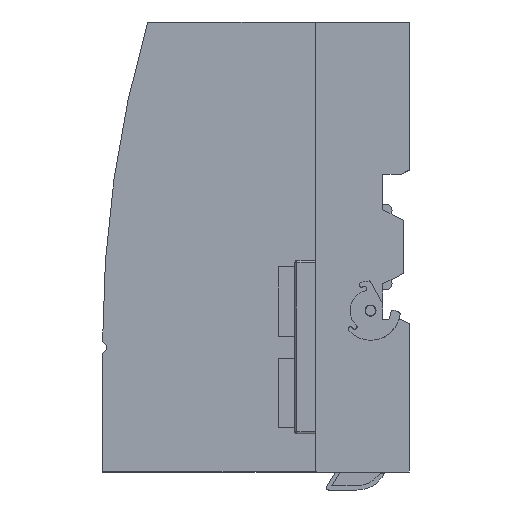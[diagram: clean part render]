
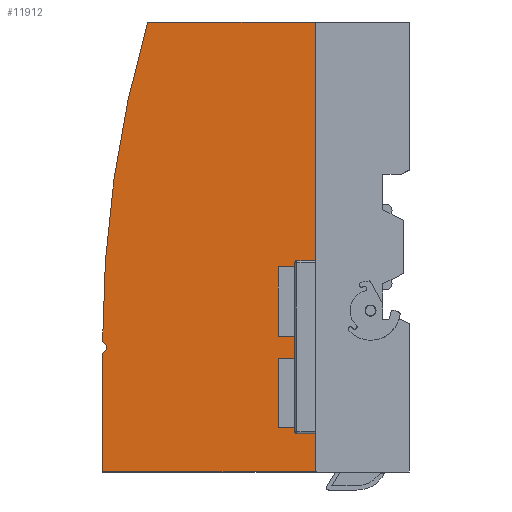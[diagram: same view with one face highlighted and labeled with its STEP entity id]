
A CAD part, left-side view. The second image highlights one B-rep face of the part: STEP entity #11912.
In plain terms, the highlighted planar face has unit normal (-1, 0, 0).
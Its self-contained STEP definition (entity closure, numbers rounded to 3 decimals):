
#104 = VECTOR ( 'NONE', #2578, 1000. ) ;
#136 = ORIENTED_EDGE ( 'NONE', *, *, #18513, .F. ) ;
#491 = ORIENTED_EDGE ( 'NONE', *, *, #26405, .F. ) ;
#1681 = DIRECTION ( 'NONE',  ( 0., 0., 1. ) ) ;
#2097 = CARTESIAN_POINT ( 'NONE',  ( 57.765, 75., -108.497 ) ) ;
#2146 = EDGE_CURVE ( 'NONE', #20770, #28177, #27227, .T. ) ;
#2578 = DIRECTION ( 'NONE',  ( 0., 1., 0. ) ) ;
#2812 = EDGE_CURVE ( 'NONE', #27849, #13783, #7240, .T. ) ;
#3464 = CARTESIAN_POINT ( 'NONE',  ( 57.765, 75., -105.497 ) ) ;
#3885 = ORIENTED_EDGE ( 'NONE', *, *, #2146, .F. ) ;
#4156 = CARTESIAN_POINT ( 'NONE',  ( 57.765, -16.749, -16.749 ) ) ;
#4619 = VECTOR ( 'NONE', #13908, 1000. ) ;
#4737 = EDGE_CURVE ( 'NONE', #21561, #27832, #27930, .T. ) ;
#6474 = CARTESIAN_POINT ( 'NONE',  ( 57.765, 23., -137.497 ) ) ;
#7225 = ORIENTED_EDGE ( 'NONE', *, *, #20458, .F. ) ;
#7240 = LINE ( 'NONE', #21262, #18736 ) ;
#7873 = ORIENTED_EDGE ( 'NONE', *, *, #4737, .F. ) ;
#8541 = DIRECTION ( 'NONE',  ( 0., -0.707, 0.707 ) ) ;
#8772 = ORIENTED_EDGE ( 'NONE', *, *, #2812, .T. ) ;
#8847 = VERTEX_POINT ( 'NONE', #3464 ) ;
#10650 = VECTOR ( 'NONE', #8541, 1000. ) ;
#11912 = ADVANCED_FACE ( 'NONE', ( #21527 ), #24164, .F. ) ;
#11981 = AXIS2_PLACEMENT_3D ( 'NONE', #6474, #15226, #19481 ) ;
#12557 = DIRECTION ( 'NONE',  ( 0., 0., -1. ) ) ;
#13783 = VERTEX_POINT ( 'NONE', #23967 ) ;
#13908 = DIRECTION ( 'NONE',  ( 0., 0., 1. ) ) ;
#13967 = DIRECTION ( 'NONE',  ( 0., 1., 0. ) ) ;
#15226 = DIRECTION ( 'NONE',  ( 1., 0., 0. ) ) ;
#15254 = LINE ( 'NONE', #4156, #10650 ) ;
#15669 = CARTESIAN_POINT ( 'NONE',  ( 57.765, 23., -137.497 ) ) ;
#15728 = LINE ( 'NONE', #27004, #24248 ) ;
#16024 = LINE ( 'NONE', #20706, #104 ) ;
#16671 = ORIENTED_EDGE ( 'NONE', *, *, #17648, .F. ) ;
#17089 = CARTESIAN_POINT ( 'NONE',  ( 57.765, 23., -137.497 ) ) ;
#17648 = EDGE_CURVE ( 'NONE', #27849, #20770, #15254, .T. ) ;
#18329 = CARTESIAN_POINT ( 'NONE',  ( 57.765, 64., -27.497 ) ) ;
#18513 = EDGE_CURVE ( 'NONE', #27832, #13783, #15728, .T. ) ;
#18736 = VECTOR ( 'NONE', #27697, 1000. ) ;
#19481 = DIRECTION ( 'NONE',  ( 0., 0., -1. ) ) ;
#19826 = CARTESIAN_POINT ( 'NONE',  ( 57.765, 74., -107.497 ) ) ;
#20458 = EDGE_CURVE ( 'NONE', #28177, #8847, #27456, .T. ) ;
#20706 = CARTESIAN_POINT ( 'NONE',  ( 57.765, 23., -27.497 ) ) ;
#20711 = EDGE_LOOP ( 'NONE', ( #3885, #16671, #8772, #136, #7873, #24834, #491, #7225 ) ) ;
#20770 = VERTEX_POINT ( 'NONE', #19826 ) ;
#20858 = DIRECTION ( 'NONE',  ( 0., 0.707, 0.707 ) ) ;
#21262 = CARTESIAN_POINT ( 'NONE',  ( 57.765, 75., -137.497 ) ) ;
#21527 = FACE_OUTER_BOUND ( 'NONE', #20711, .T. ) ;
#21561 = VERTEX_POINT ( 'NONE', #27167 ) ;
#21947 = CARTESIAN_POINT ( 'NONE',  ( 57.765, 74., -106.497 ) ) ;
#22244 = EDGE_CURVE ( 'NONE', #21561, #22644, #16024, .T. ) ;
#22644 = VERTEX_POINT ( 'NONE', #18329 ) ;
#23229 = AXIS2_PLACEMENT_3D ( 'NONE', #28730, #28882, #1681 ) ;
#23275 = CARTESIAN_POINT ( 'NONE',  ( 57.765, 74., 0. ) ) ;
#23967 = CARTESIAN_POINT ( 'NONE',  ( 57.765, 75., -137.497 ) ) ;
#24164 = PLANE ( 'NONE',  #11981 ) ;
#24248 = VECTOR ( 'NONE', #13967, 1000. ) ;
#24629 = CIRCLE ( 'NONE', #23229, 282.045 ) ;
#24685 = CARTESIAN_POINT ( 'NONE',  ( 57.765, 90.249, -90.249 ) ) ;
#24834 = ORIENTED_EDGE ( 'NONE', *, *, #22244, .T. ) ;
#25781 = VECTOR ( 'NONE', #20858, 1000. ) ;
#25858 = VECTOR ( 'NONE', #12557, 1000. ) ;
#26405 = EDGE_CURVE ( 'NONE', #8847, #22644, #24629, .T. ) ;
#27004 = CARTESIAN_POINT ( 'NONE',  ( 57.765, 23., -137.497 ) ) ;
#27167 = CARTESIAN_POINT ( 'NONE',  ( 57.765, 23., -27.497 ) ) ;
#27227 = LINE ( 'NONE', #23275, #4619 ) ;
#27456 = LINE ( 'NONE', #24685, #25781 ) ;
#27697 = DIRECTION ( 'NONE',  ( 0., 0., -1. ) ) ;
#27832 = VERTEX_POINT ( 'NONE', #15669 ) ;
#27849 = VERTEX_POINT ( 'NONE', #2097 ) ;
#27930 = LINE ( 'NONE', #17089, #25858 ) ;
#28177 = VERTEX_POINT ( 'NONE', #21947 ) ;
#28730 = CARTESIAN_POINT ( 'NONE',  ( 57.765, -207.045, -105.497 ) ) ;
#28882 = DIRECTION ( 'NONE',  ( 1., 0., 0. ) ) ;
